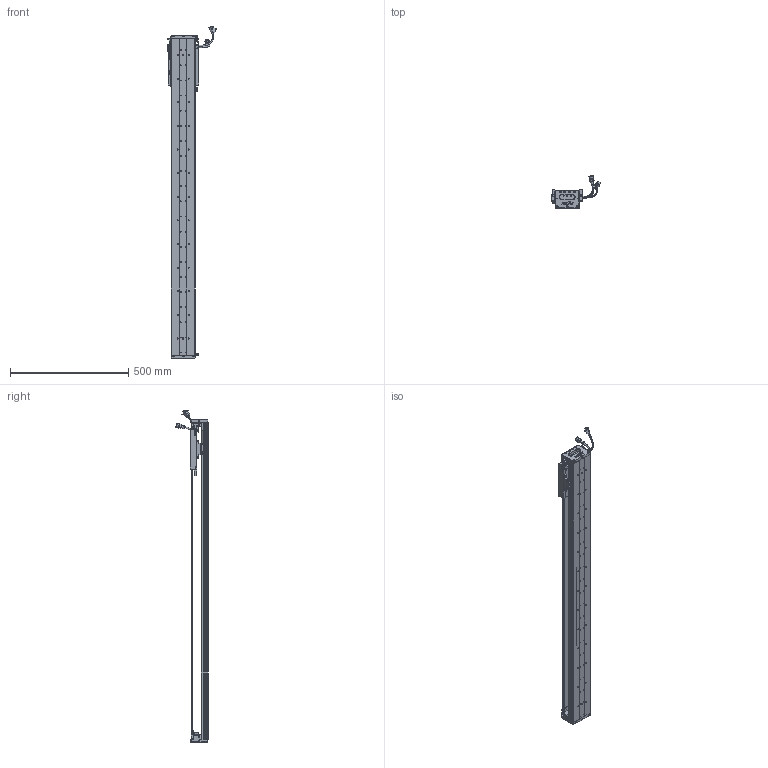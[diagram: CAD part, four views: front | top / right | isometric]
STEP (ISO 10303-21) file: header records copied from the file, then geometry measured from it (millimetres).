
FILE_DESCRIPTION (( 'STEP AP203' ), '1' );
FILE_NAME ('Z2-RY100D-1-L500-B-K.SLDASM_1100.step', '2021-05-17T02:35:58', ( '盈信电脑' ), ( '东莞市道滘镇水果街19号' ), 'SwSTEP 2.0', 'SolidWorks 2016', '' );
FILE_SCHEMA (( 'CONFIG_CONTROL_DESIGN' ));
Length unit declared in the file: millimetre
Products named in the file (36): HARNESS-Part-2; 覜茼ん672; 140蚥薯蝶輸; 100-Z-臏賑輸盄裔(21遴); Z2-RY100-L500詩湍90mm遵_1100; PSLH080_PSLF2; SHIELDPLATE; Z-100詩湍傷裔啣; SCREW-M1.6; 140雄赽晤鎢ん堤盄; SCREW-M1.6-2; HARNESS-Part-1; PBU_SHEET; SEAL-Part-1; COVER-Part-1; Z2-RY100铝滑块（21款）; SCREW-M1.7-1; Z2-RY100D-500-倰第菁釱_1100; 榋妏寠巭燃_暯_M2_2; SCALE-Part-2; SCALE-Part-1; SCREW-M1.6-1; COVER; Z-RY100D覜茼んえ; HARNESS; Z2-RY100D-1-L500-B-K.SLDASM_1100; LABEL; Z-RY100D詩湍狟揤裔; SCALE; SEAL; 080黍杅芛假蚾釱21遴; LABEL-Part-1; SCREW-M1.7; Z-RY100D詩湍奻揤裔; HOLDER0; SCREW-M1.6-3
Assembly tree (43 placements, depth 4):
  Z2-RY100D-1-L500-B-K.SLDASM_1100
    Z2-RY100D-500-倰第菁釱_1100
    Z2-RY100铝滑块（21款）
    PSLH080_PSLF2
      SCALE
        SCALE-Part-1
        SCALE-Part-2
      HARNESS
        HARNESS-Part-1
        HARNESS-Part-2
      LABEL
        LABEL-Part-1
      COVER
        COVER-Part-1
      SEAL
        SEAL-Part-1
      榋妏寠巭燃_暯_M2_2
      SHIELDPLATE
      SCREW-M1.7
      SCREW-M1.7-1
      PBU_SHEET
      SCREW-M1.6
      SCREW-M1.6-1
      SCREW-M1.6-2
      SCREW-M1.6-3
      HOLDER0
    080黍杅芛假蚾釱21遴
    Z-100詩湍傷裔啣  x2
    140蚥薯蝶輸  x2
    覜茼ん672  x3
    Z-RY100D覜茼んえ  x3
    100-Z-臏賑輸盄裔(21遴)
    140雄赽晤鎢ん堤盄
    Z2-RY100-L500詩湍90mm遵_1100
    Z-RY100D詩湍狟揤裔  x2
    Z-RY100D詩湍奻揤裔  x2
Bounding box: 205.84 x 136.11 x 1405.43 mm (x, y, z)
Volume: 2769683.2 mm3; surface area: 1080832.1 mm2
Topology: 38 solids, 38 shells, 2640 faces, 6993 edges, 4436 vertices
Faces by surface type: cylinder 1170, plane 1130, cone 218, torus 69, bspline 53
Entity records: 72717 total; most frequent: CARTESIAN_POINT 15336, DIRECTION 11537, ORIENTED_EDGE 10882, EDGE_CURVE 5441, AXIS2_PLACEMENT_3D 4257, VERTEX_POINT 3504, LINE 3023, VECTOR 3023
